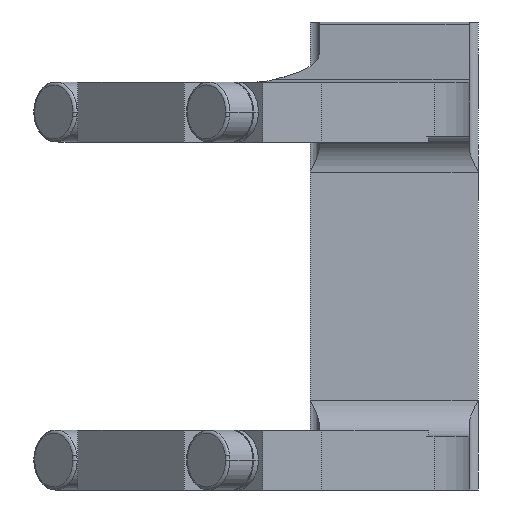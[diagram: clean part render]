
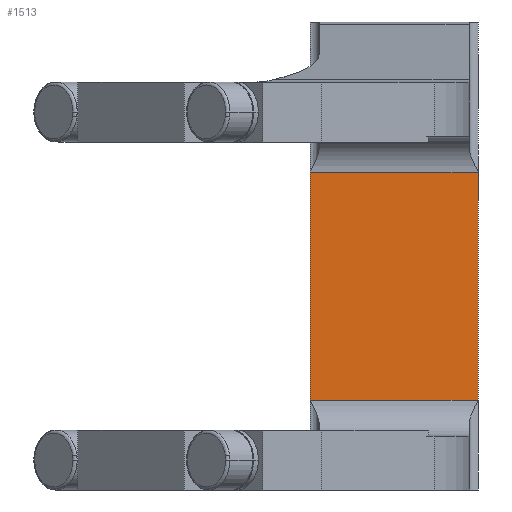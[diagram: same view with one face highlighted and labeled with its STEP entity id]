
A CAD part, front view. The second image highlights one B-rep face of the part: STEP entity #1513.
In plain terms, the highlighted planar face has unit normal (0, -1, 0).
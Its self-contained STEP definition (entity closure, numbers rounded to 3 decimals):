
#1081=CARTESIAN_POINT('Vertex',(15.,80.,19.)) ;
#1084=CARTESIAN_POINT('Line Origine',(-2.5,80.,19.)) ;
#1088=CARTESIAN_POINT('Vertex',(43.,80.,19.)) ;
#1483=CARTESIAN_POINT('Axis2P3D Location',(43.,80.,19.)) ;
#1488=CARTESIAN_POINT('Line Origine',(15.,80.,0.)) ;
#1492=CARTESIAN_POINT('Vertex',(15.,80.,-19.)) ;
#1495=CARTESIAN_POINT('Line Origine',(29.,80.,-19.)) ;
#1499=CARTESIAN_POINT('Vertex',(43.,80.,-19.)) ;
#1502=CARTESIAN_POINT('Line Origine',(43.,80.,0.)) ;
#1085=DIRECTION('Vector Direction',(1.,0.,0.)) ;
#1484=DIRECTION('Axis2P3D Direction',(0.,1.,0.)) ;
#1485=DIRECTION('Axis2P3D XDirection',(0.,0.,-1.)) ;
#1489=DIRECTION('Vector Direction',(0.,0.,-1.)) ;
#1496=DIRECTION('Vector Direction',(-1.,0.,0.)) ;
#1503=DIRECTION('Vector Direction',(0.,0.,-1.)) ;
#1486=AXIS2_PLACEMENT_3D('Plane Axis2P3D',#1483,#1484,#1485) ;
#1508=ORIENTED_EDGE('',*,*,#1494,.F.) ;
#1509=ORIENTED_EDGE('',*,*,#1501,.F.) ;
#1510=ORIENTED_EDGE('',*,*,#1506,.T.) ;
#1511=ORIENTED_EDGE('',*,*,#1090,.T.) ;
#1086=VECTOR('Line Direction',#1085,1.) ;
#1490=VECTOR('Line Direction',#1489,1.) ;
#1497=VECTOR('Line Direction',#1496,1.) ;
#1504=VECTOR('Line Direction',#1503,1.) ;
#1513=ADVANCED_FACE('Brep With Voids',(#1512),#1487,.F.) ;
#1090=EDGE_CURVE('',#1089,#1082,#1087,.F.) ;
#1494=EDGE_CURVE('',#1493,#1082,#1491,.F.) ;
#1501=EDGE_CURVE('',#1500,#1493,#1498,.T.) ;
#1506=EDGE_CURVE('',#1500,#1089,#1505,.F.) ;
#1507=EDGE_LOOP('',(#1508,#1509,#1510,#1511)) ;
#1512=FACE_OUTER_BOUND('',#1507,.T.) ;
#1087=LINE('Line',#1084,#1086) ;
#1491=LINE('Line',#1488,#1490) ;
#1498=LINE('Line',#1495,#1497) ;
#1505=LINE('Line',#1502,#1504) ;
#1487=PLANE('Plane',#1486) ;
#1082=VERTEX_POINT('',#1081) ;
#1089=VERTEX_POINT('',#1088) ;
#1493=VERTEX_POINT('',#1492) ;
#1500=VERTEX_POINT('',#1499) ;
